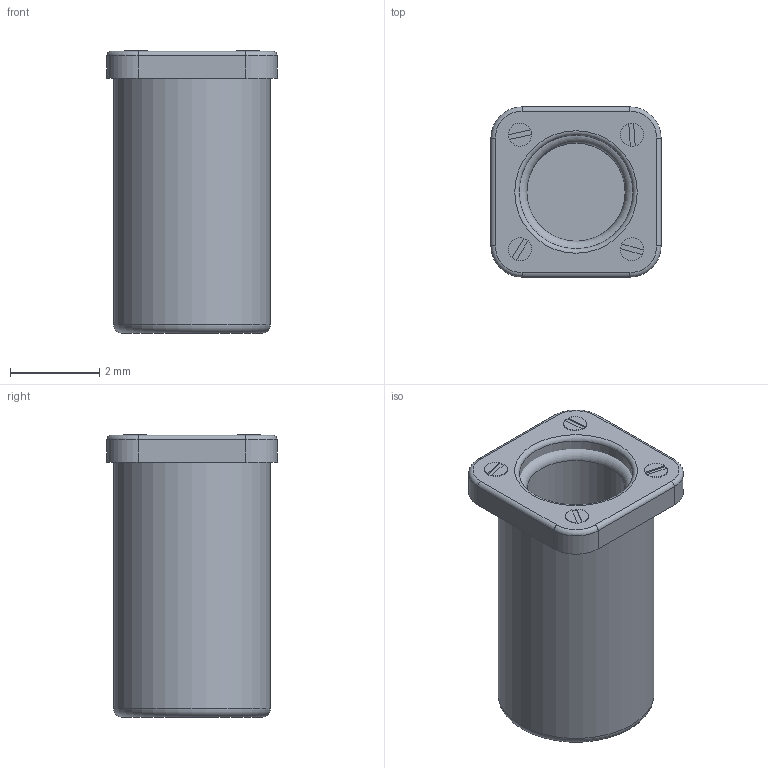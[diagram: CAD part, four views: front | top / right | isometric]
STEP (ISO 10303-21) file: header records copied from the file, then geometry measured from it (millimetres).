
FILE_DESCRIPTION(/* description */ ('','CAx-IF Rec.Pracs.---Representation and Presentation of Product Manufacturing Information (PMI)---4.0---2014-10-13'),/* implementation_level */ '2;1');
FILE_NAME(/* name */ '20elcobilgedrainage.step',/* time_stamp */ '2025-03-07T13:19:19+11:00',/* author */ (''),/* organization */ (''),/* preprocessor_version */ 'ST-DEVELOPER v20',/* originating_system */ 'Autodesk Translation Framework v13.20.0.188',/* authorisation */ '');
FILE_SCHEMA (('AP242_MANAGED_MODEL_BASED_3D_ENGINEERING_MIM_LF { 1 0 10303 442 1 1 4 }'));
Length unit declared in the file: millimetre
Products named in the file (1): Elco Bilge Drainage
Bounding box: 3.81 x 3.81 x 6.33 mm (x, y, z)
Volume: 43.1 mm3; surface area: 150.4 mm2
Topology: 2 solids, 2 shells, 63 faces, 138 edges, 84 vertices
Faces by surface type: plane 29, cylinder 27, torus 7
Full cylindrical faces by diameter (mm): 2.2 x1, 2.54 x1, 3.5 x1
Entity records: 1763 total; most frequent: DIRECTION 333, CARTESIAN_POINT 286, ORIENTED_EDGE 276, EDGE_CURVE 138, AXIS2_PLACEMENT_3D 131, VERTEX_POINT 84, LINE 71, VECTOR 71
